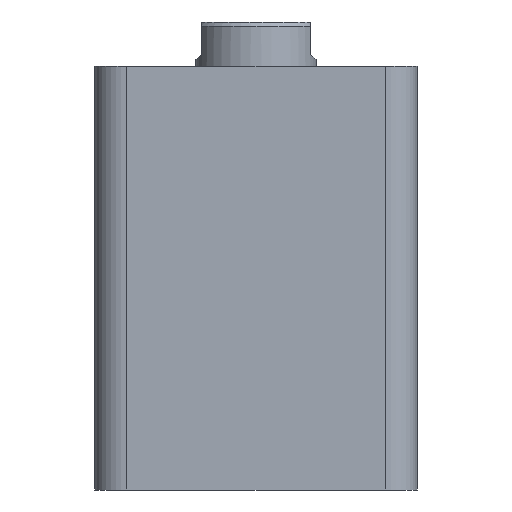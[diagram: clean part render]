
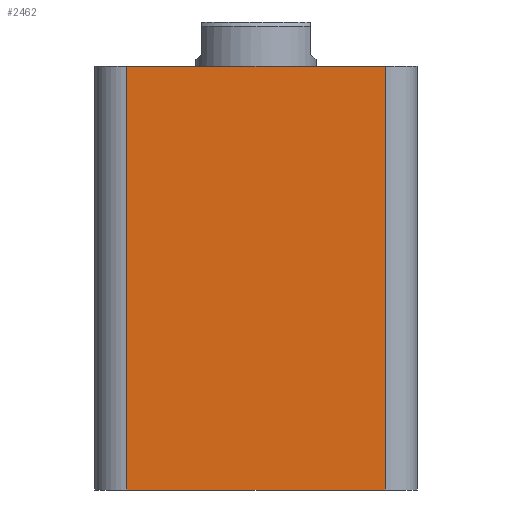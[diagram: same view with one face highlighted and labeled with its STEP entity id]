
A CAD part, front view. The second image highlights one B-rep face of the part: STEP entity #2462.
In plain terms, the highlighted planar face has unit normal (0, -1, 0).
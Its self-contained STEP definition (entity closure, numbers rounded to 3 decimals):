
#304 = EDGE_LOOP ( 'NONE', ( #1457, #1458, #1459, #1460 ) ) ;
#348 = VERTEX_POINT ( 'NONE', #1961 ) ;
#369 = VERTEX_POINT ( 'NONE', #1940 ) ;
#404 = VERTEX_POINT ( 'NONE', #1928 ) ;
#409 = VECTOR ( 'NONE', #2125, 1000. ) ;
#413 = VECTOR ( 'NONE', #2130, 1000. ) ;
#415 = LINE ( 'NONE', #2126, #409 ) ;
#418 = VECTOR ( 'NONE', #2131, 1000. ) ;
#423 = VECTOR ( 'NONE', #2133, 1000. ) ;
#424 = LINE ( 'NONE', #2132, #418 ) ;
#429 = LINE ( 'NONE', #2136, #423 ) ;
#439 = LINE ( 'NONE', #2148, #413 ) ;
#567 = VERTEX_POINT ( 'NONE', #1811 ) ;
#914 = AXIS2_PLACEMENT_3D ( 'NONE', #1151, #1145, #1144 ) ;
#1144 = DIRECTION ( 'NONE',  ( 0., 0., 1. ) ) ;
#1145 = DIRECTION ( 'NONE',  ( 0., 1., 0. ) ) ;
#1147 = PLANE ( 'NONE',  #914 ) ;
#1151 = CARTESIAN_POINT ( 'NONE',  ( -40., -40., 105. ) ) ;
#1457 = ORIENTED_EDGE ( 'NONE', *, *, #2081, .F. ) ;
#1458 = ORIENTED_EDGE ( 'NONE', *, *, #2082, .T. ) ;
#1459 = ORIENTED_EDGE ( 'NONE', *, *, #2083, .T. ) ;
#1460 = ORIENTED_EDGE ( 'NONE', *, *, #2084, .T. ) ;
#1811 = CARTESIAN_POINT ( 'NONE',  ( 32., -40., 105. ) ) ;
#1928 = CARTESIAN_POINT ( 'NONE',  ( -32., -40., 105. ) ) ;
#1940 = CARTESIAN_POINT ( 'NONE',  ( -32., -40., 0. ) ) ;
#1961 = CARTESIAN_POINT ( 'NONE',  ( 32., -40., 0. ) ) ;
#2081 = EDGE_CURVE ( 'NONE', #404, #567, #429, .T. ) ;
#2082 = EDGE_CURVE ( 'NONE', #404, #369, #424, .T. ) ;
#2083 = EDGE_CURVE ( 'NONE', #369, #348, #439, .T. ) ;
#2084 = EDGE_CURVE ( 'NONE', #348, #567, #415, .T. ) ;
#2125 = DIRECTION ( 'NONE',  ( 0., 0., 1. ) ) ;
#2126 = CARTESIAN_POINT ( 'NONE',  ( 32., -40., 105. ) ) ;
#2130 = DIRECTION ( 'NONE',  ( 1., 0., 0. ) ) ;
#2131 = DIRECTION ( 'NONE',  ( 0., 0., -1. ) ) ;
#2132 = CARTESIAN_POINT ( 'NONE',  ( -32., -40., 105. ) ) ;
#2133 = DIRECTION ( 'NONE',  ( 1., 0., 0. ) ) ;
#2136 = CARTESIAN_POINT ( 'NONE',  ( -40., -40., 105. ) ) ;
#2148 = CARTESIAN_POINT ( 'NONE',  ( -40., -40., 0. ) ) ;
#2462 = ADVANCED_FACE ( 'NONE', ( #2530 ), #1147, .F. ) ;
#2530 = FACE_OUTER_BOUND ( 'NONE', #304, .T. ) ;
